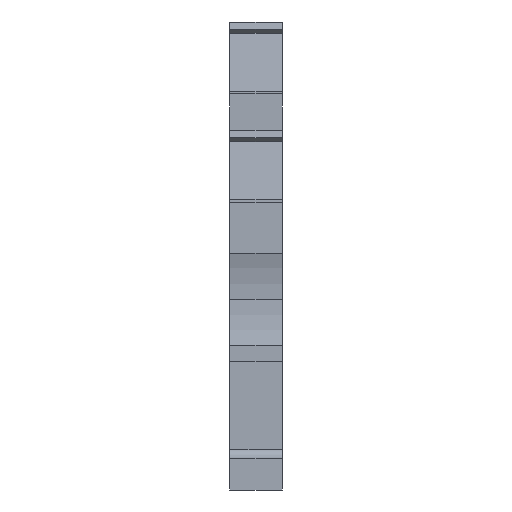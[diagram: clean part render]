
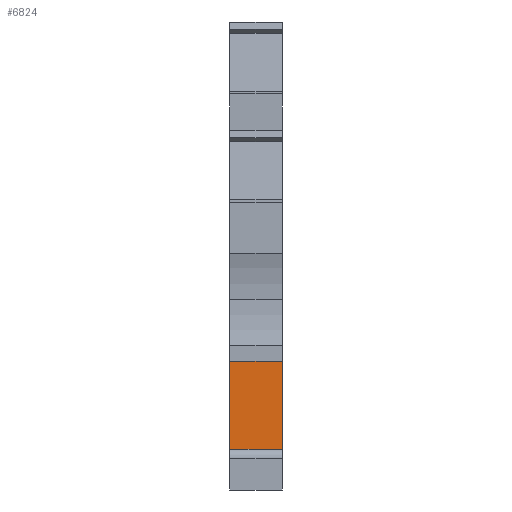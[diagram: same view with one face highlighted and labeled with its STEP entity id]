
A CAD part, front view. The second image highlights one B-rep face of the part: STEP entity #6824.
In plain terms, the highlighted planar face has unit normal (0, -1, 0).
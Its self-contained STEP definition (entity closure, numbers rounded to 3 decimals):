
#859=CARTESIAN_POINT('',(0.,3.6,4.));
#860=VERTEX_POINT('',#859);
#867=CARTESIAN_POINT('',(0.,3.6,12.6));
#868=VERTEX_POINT('',#867);
#869=CARTESIAN_POINT('',(0.,3.6,4.));
#870=DIRECTION('',(0.,0.,1.));
#871=VECTOR('',#870,8.6);
#872=LINE('',#869,#871);
#873=EDGE_CURVE('',#860,#868,#872,.T.);
#2522=CARTESIAN_POINT('',(1.,3.6,4.));
#2523=VERTEX_POINT('',#2522);
#2530=CARTESIAN_POINT('',(1.,3.6,4.));
#2531=DIRECTION('',(-1.,0.,0.));
#2532=VECTOR('',#2531,1.);
#2533=LINE('',#2530,#2532);
#2534=EDGE_CURVE('',#2523,#860,#2533,.T.);
#2545=CARTESIAN_POINT('',(1.,3.6,1.5));
#2546=VERTEX_POINT('',#2545);
#2547=CARTESIAN_POINT('',(1.,3.6,1.5));
#2548=DIRECTION('',(-0.,0.,1.));
#2549=VECTOR('',#2548,2.5);
#2550=LINE('',#2547,#2549);
#2551=EDGE_CURVE('',#2546,#2523,#2550,.T.);
#3222=CARTESIAN_POINT('',(5.15,3.6,12.6));
#3223=VERTEX_POINT('',#3222);
#3230=CARTESIAN_POINT('',(5.15,3.6,1.5));
#3231=VERTEX_POINT('',#3230);
#3232=CARTESIAN_POINT('',(5.15,3.6,1.5));
#3233=DIRECTION('',(0.,0.,1.));
#3234=VECTOR('',#3233,11.1);
#3235=LINE('',#3232,#3234);
#3236=EDGE_CURVE('',#3231,#3223,#3235,.T.);
#6797=CARTESIAN_POINT('',(5.15,3.6,1.5));
#6798=DIRECTION('',(-1.,0.,0.));
#6799=VECTOR('',#6798,4.15);
#6800=LINE('',#6797,#6799);
#6801=EDGE_CURVE('',#3231,#2546,#6800,.T.);
#6806=CARTESIAN_POINT('',(5.15,3.6,2.5));
#6807=DIRECTION('',(0.,1.,-0.));
#6808=DIRECTION('',(0.,-0.,-1.));
#6809=AXIS2_PLACEMENT_3D('',#6806,#6807,#6808);
#6810=PLANE('',#6809);
#6811=CARTESIAN_POINT('',(5.15,3.6,12.6));
#6812=DIRECTION('',(-1.,0.,0.));
#6813=VECTOR('',#6812,5.15);
#6814=LINE('',#6811,#6813);
#6815=EDGE_CURVE('',#3223,#868,#6814,.T.);
#6816=ORIENTED_EDGE('',*,*,#6815,.T.);
#6817=ORIENTED_EDGE('',*,*,#873,.F.);
#6818=ORIENTED_EDGE('',*,*,#2534,.F.);
#6819=ORIENTED_EDGE('',*,*,#2551,.F.);
#6820=ORIENTED_EDGE('',*,*,#6801,.F.);
#6821=ORIENTED_EDGE('',*,*,#3236,.T.);
#6822=EDGE_LOOP('',(#6816,#6817,#6818,#6819,#6820,#6821));
#6823=FACE_BOUND('',#6822,.T.);
#6824=ADVANCED_FACE('',(#6823),#6810,.F.);
